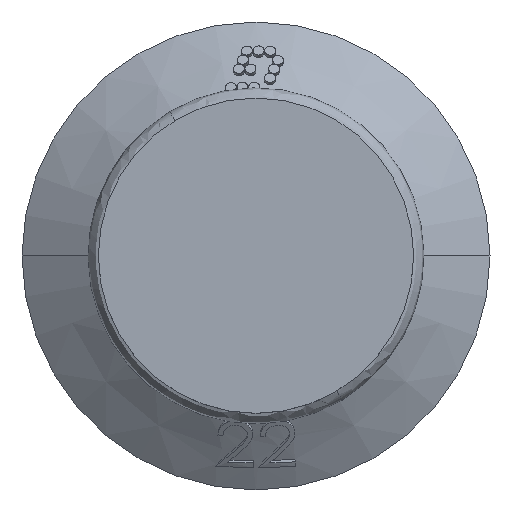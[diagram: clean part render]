
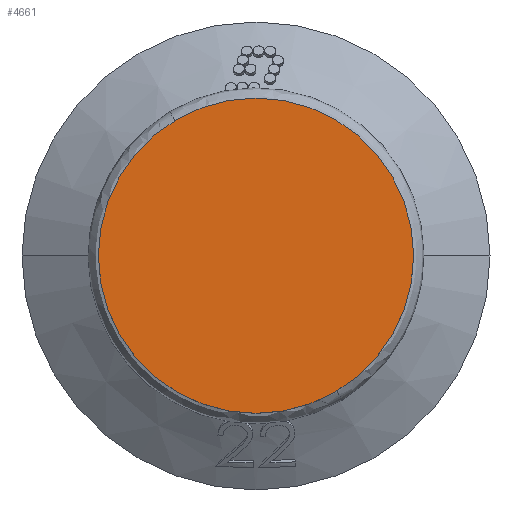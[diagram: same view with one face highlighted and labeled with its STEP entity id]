
A CAD part, top view. The second image highlights one B-rep face of the part: STEP entity #4661.
In plain terms, the highlighted planar face has unit normal (0, 0, 1).
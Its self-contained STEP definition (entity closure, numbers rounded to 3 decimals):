
#1321 = CARTESIAN_POINT ( 'NONE',  ( 0., 0., 8. ) ) ;
#1827 = DIRECTION ( 'NONE',  ( -1., 0., 0. ) ) ;
#2233 = DIRECTION ( 'NONE',  ( 1., 0., 0. ) ) ;
#2271 = DIRECTION ( 'NONE',  ( 0., 0., 1. ) ) ;
#2476 = AXIS2_PLACEMENT_3D ( 'NONE', #5121, #2271, #2233 ) ;
#2626 = PLANE ( 'NONE',  #2476 ) ;
#2684 = AXIS2_PLACEMENT_3D ( 'NONE', #1321, #3733, #1827 ) ;
#2828 = EDGE_CURVE ( 'NONE', #5860, #6427, #3911, .T. ) ;
#3018 = DIRECTION ( 'NONE',  ( 0., 0., -1. ) ) ;
#3733 = DIRECTION ( 'NONE',  ( 0., 0., -1. ) ) ;
#3911 = CIRCLE ( 'NONE', #2684, 7.25 ) ;
#4171 = FACE_OUTER_BOUND ( 'NONE', #5790, .T. ) ;
#4365 = CARTESIAN_POINT ( 'NONE',  ( 7.25, 0., 8. ) ) ;
#4509 = CARTESIAN_POINT ( 'NONE',  ( -7.25, 0., 8. ) ) ;
#4661 = ADVANCED_FACE ( 'NONE', ( #4171 ), #2626, .T. ) ;
#4909 = ORIENTED_EDGE ( 'NONE', *, *, #2828, .F. ) ;
#5052 = EDGE_CURVE ( 'NONE', #6427, #5860, #6224, .T. ) ;
#5121 = CARTESIAN_POINT ( 'NONE',  ( 0., 0., 8. ) ) ;
#5437 = CARTESIAN_POINT ( 'NONE',  ( 0., 0., 8. ) ) ;
#5790 = EDGE_LOOP ( 'NONE', ( #6073, #4909 ) ) ;
#5860 = VERTEX_POINT ( 'NONE', #4365 ) ;
#5933 = DIRECTION ( 'NONE',  ( -1., 0., 0. ) ) ;
#6073 = ORIENTED_EDGE ( 'NONE', *, *, #5052, .F. ) ;
#6122 = AXIS2_PLACEMENT_3D ( 'NONE', #5437, #3018, #5933 ) ;
#6224 = CIRCLE ( 'NONE', #6122, 7.25 ) ;
#6427 = VERTEX_POINT ( 'NONE', #4509 ) ;
